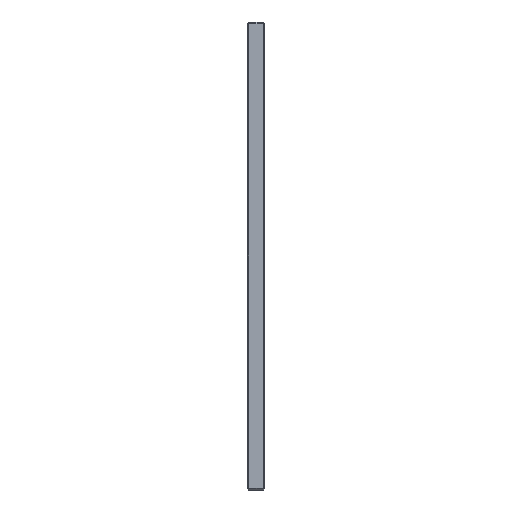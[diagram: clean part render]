
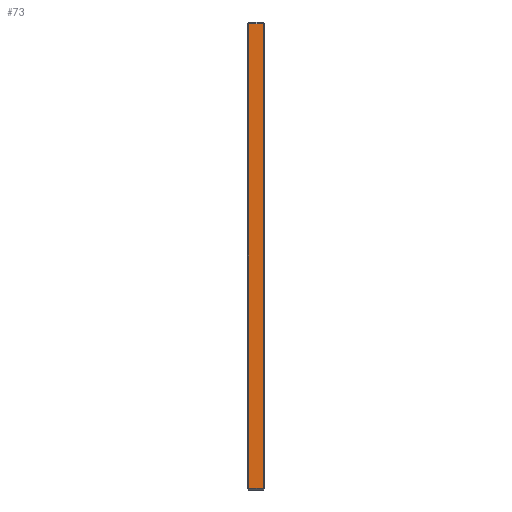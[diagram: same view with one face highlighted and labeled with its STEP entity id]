
A CAD part, left-side view. The second image highlights one B-rep face of the part: STEP entity #73.
In plain terms, the highlighted planar face has unit normal (-1, 0, 0).
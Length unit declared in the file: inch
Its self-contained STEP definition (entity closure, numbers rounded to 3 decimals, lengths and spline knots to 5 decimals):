
#35 = VERTEX_POINT ( 'NONE', #217 ) ;
#50 = LINE ( 'NONE', #1577, #1687 ) ;
#69 = DIRECTION ( 'NONE',  ( 0., 0., -1. ) ) ;
#73 = ADVANCED_FACE ( 'Placement Plane', ( #1825 ), #1345, .F. ) ;
#160 = CARTESIAN_POINT ( 'NONE',  ( -14.6875, 0.05, 6.575 ) ) ;
#203 = CARTESIAN_POINT ( 'NONE',  ( -14.6875, 0.5, -6.575 ) ) ;
#211 = VERTEX_POINT ( 'NONE', #1722 ) ;
#217 = CARTESIAN_POINT ( 'NONE',  ( -14.6875, 0.45, -6.575 ) ) ;
#244 = VECTOR ( 'NONE', #305, 39.37008 ) ;
#288 = EDGE_CURVE ( 'NONE', #35, #211, #1688, .T. ) ;
#305 = DIRECTION ( 'NONE',  ( 0., 0., -1. ) ) ;
#534 = VECTOR ( 'NONE', #1510, 39.37008 ) ;
#559 = CARTESIAN_POINT ( 'NONE',  ( -14.6875, 0.5, -6.625 ) ) ;
#571 = ORIENTED_EDGE ( 'NONE', *, *, #864, .T. ) ;
#721 = EDGE_CURVE ( 'NONE', #1847, #1952, #50, .T. ) ;
#728 = LINE ( 'NONE', #1622, #534 ) ;
#750 = EDGE_LOOP ( 'NONE', ( #571, #1589, #1202, #1379 ) ) ;
#864 = EDGE_CURVE ( 'NONE', #1952, #35, #1513, .T. ) ;
#939 = CARTESIAN_POINT ( 'NONE',  ( -14.6875, 0.45, -6.625 ) ) ;
#972 = EDGE_CURVE ( 'NONE', #211, #1847, #728, .T. ) ;
#1202 = ORIENTED_EDGE ( 'NONE', *, *, #972, .T. ) ;
#1345 = PLANE ( 'NONE',  #1988 ) ;
#1371 = CARTESIAN_POINT ( 'NONE',  ( -14.6875, 0.45, 6.575 ) ) ;
#1379 = ORIENTED_EDGE ( 'NONE', *, *, #721, .T. ) ;
#1510 = DIRECTION ( 'NONE',  ( 0., 0., 1. ) ) ;
#1513 = LINE ( 'NONE', #939, #244 ) ;
#1577 = CARTESIAN_POINT ( 'NONE',  ( -14.6875, 0.5, 6.575 ) ) ;
#1589 = ORIENTED_EDGE ( 'NONE', *, *, #288, .T. ) ;
#1602 = VECTOR ( 'NONE', #1957, 39.37008 ) ;
#1622 = CARTESIAN_POINT ( 'NONE',  ( -14.6875, 0.05, -6.625 ) ) ;
#1687 = VECTOR ( 'NONE', #1772, 39.37008 ) ;
#1688 = LINE ( 'NONE', #203, #1602 ) ;
#1722 = CARTESIAN_POINT ( 'NONE',  ( -14.6875, 0.05, -6.575 ) ) ;
#1772 = DIRECTION ( 'NONE',  ( 0., 1., 0. ) ) ;
#1825 = FACE_OUTER_BOUND ( 'NONE', #750, .T. ) ;
#1836 = DIRECTION ( 'NONE',  ( 1., 0., 0. ) ) ;
#1847 = VERTEX_POINT ( 'NONE', #160 ) ;
#1952 = VERTEX_POINT ( 'NONE', #1371 ) ;
#1957 = DIRECTION ( 'NONE',  ( 0., -1., 0. ) ) ;
#1988 = AXIS2_PLACEMENT_3D ( 'NONE', #559, #1836, #69 ) ;
